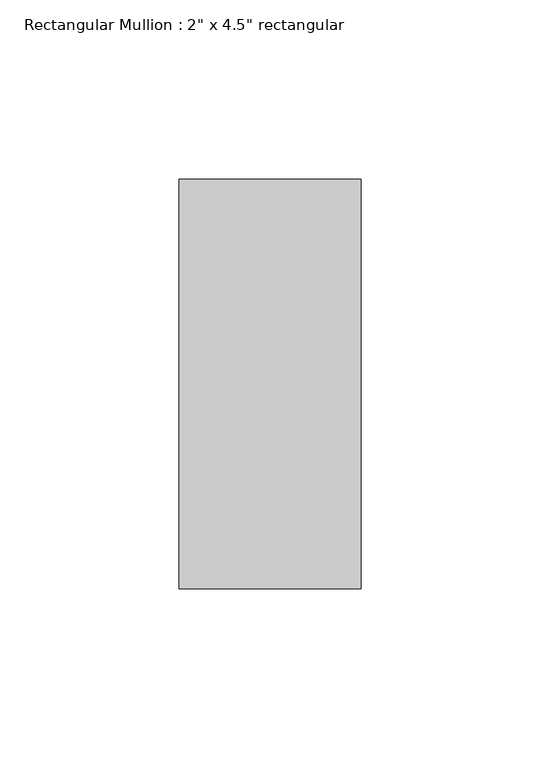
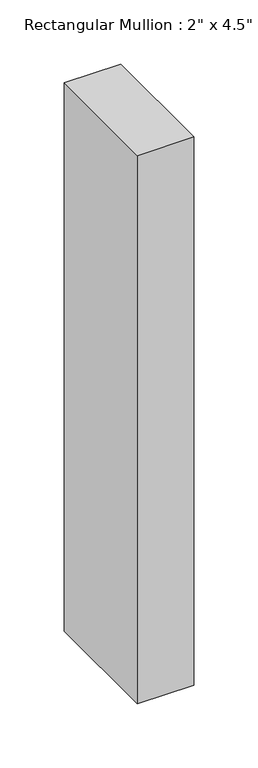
"""IFC4 building model written with IfcOpenShell, lengths in millimetres: member geometry."""

from ifc_helpers import new_model, si_unit, frame, origin, place, context, project, spatial, polyline, outline, extrude, source, transform, mapped, element, save


def member_b8d22739(model_context):
    return source(origin(), model_context, "Body", "SweptSolid", [
        extrude(outline(polyline([(0.0, 57.15), (0.0, -57.15), (-50.8, -57.15), (-50.8, 57.15), (0.0, 57.15)])), frame((0.0, 0.0, -521.7878761), z_axis=(0.0, 0.0, 1.0), x_axis=(1.0, 0.0, 0.0)), (0.0, 0.0, 1.0), 521.7878761),
    ])


if __name__ == "__main__":
    model = new_model("IFC4")
    model_context = context("Model", 3, world=origin())
    ifc_project = project(units=[si_unit("LENGTHUNIT", "METRE", prefix="MILLI")], contexts=[model_context])
    site = spatial("IfcSite", under=ifc_project)
    building = spatial("IfcBuilding", under=site)
    placement = place(None, origin())
    member_shape = member_b8d22739(model_context)
    element("IfcMember", 1, ObjectType="Rectangular Mullion : 2\" x 4.5\" rectangular", at=placement, inside=building, context=model_context, shape_type="MappedRepresentation", body=[
        mapped(member_shape, transform((0.0, 0.0, 0.0), x_axis=(1.0, 0.0, 0.0), y_axis=(0.0, 1.0, 0.0), z_axis=(0.0, 0.0, 1.0))),
    ])
    save(model, "model.ifc")
